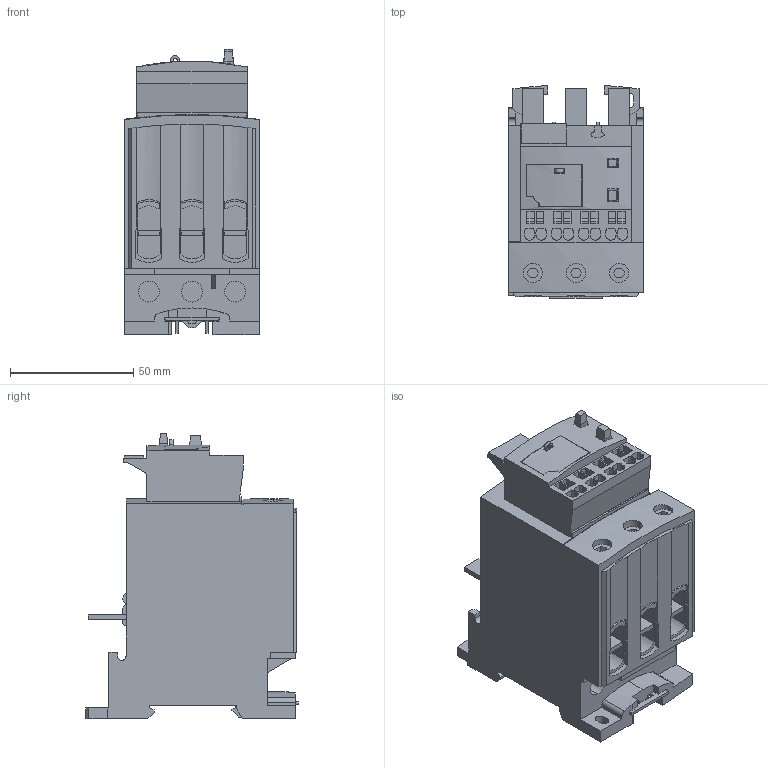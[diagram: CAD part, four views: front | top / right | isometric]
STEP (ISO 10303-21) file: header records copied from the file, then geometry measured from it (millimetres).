
FILE_DESCRIPTION((''),'2;1');
FILE_NAME('LRD3XX3-3D_ASM','2022-09-09T12:22:21',('SESA507772'),('Schneider-Electric'),'CREO PARAMETRIC BY PTC INC, 2021284','CREO PARAMETRIC BY PTC INC, 2021284','');
FILE_SCHEMA(('AP242_MANAGED_MODEL_BASED_3D_ENGINEERING_MIM_LF { 1 0 10303 442 1 1 4 }'));
Length unit declared in the file: millimetre
Products named in the file (2): LRD3XX3; LRD3XX3-3D_ASM
Assembly tree (1 placements, depth 2):
  LRD3XX3-3D_ASM
    LRD3XX3
Bounding box: 54.8 x 86.44 x 115.78 mm (x, y, z)
Volume: 308473 mm3; surface area: 51881 mm2
Topology: 2 solids, 2 shells, 710 faces, 1950 edges, 1293 vertices
Faces by surface type: plane 595, cylinder 101, extrusion 14
Entity records: 31411 total; most frequent: CARTESIAN_POINT 4712, ORIENTED_EDGE 3900, DIRECTION 3510, PRESENTATION_STYLE_ASSIGNMENT 2169, STYLED_ITEM 1952, CURVE_STYLE 1950, EDGE_CURVE 1950, VECTOR 1702
